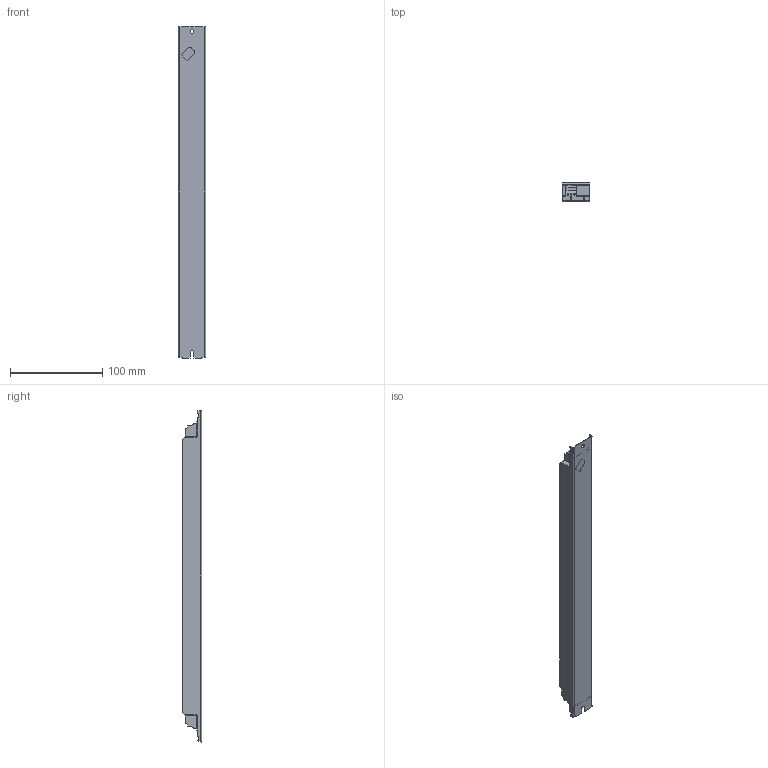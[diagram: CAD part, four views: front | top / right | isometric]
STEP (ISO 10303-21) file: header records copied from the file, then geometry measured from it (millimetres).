
FILE_DESCRIPTION((''),'2;1');
FILE_NAME('15006783Z','2011-11-29T',('juergen.hrach'),(''),'PRO/ENGINEER BY PARAMETRIC TECHNOLOGY CORPORATION, 2010480','PRO/ENGINEER BY PARAMETRIC TECHNOLOGY CORPORATION, 2010480','');
FILE_SCHEMA(('AUTOMOTIVE_DESIGN { 1 2 10303 214 0 1 1 1 }'));
Length unit declared in the file: millimetre
Products named in the file (1): 15006783Z
Bounding box: 30 x 21 x 360 mm (x, y, z)
Volume: 198983.9 mm3; surface area: 36902.6 mm2
Topology: 1 solids, 1 shells, 355 faces, 1022 edges, 680 vertices
Faces by surface type: plane 248, cylinder 87, extrusion 20
Entity records: 15208 total; most frequent: CARTESIAN_POINT 2324, ORIENTED_EDGE 2044, DIRECTION 1816, PRESENTATION_STYLE_ASSIGNMENT 1050, STYLED_ITEM 1023, CURVE_STYLE 1022, EDGE_CURVE 1022, VECTOR 806
